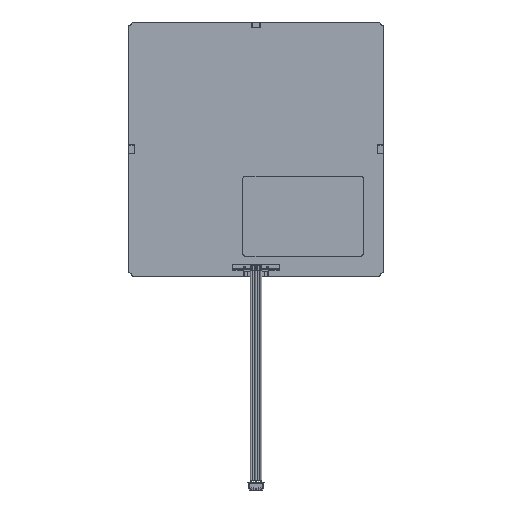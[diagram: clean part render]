
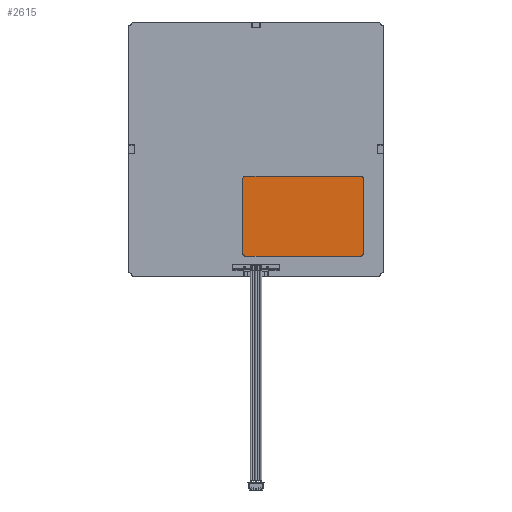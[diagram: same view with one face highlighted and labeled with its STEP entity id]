
A CAD part, front view. The second image highlights one B-rep face of the part: STEP entity #2615.
In plain terms, the highlighted planar face has unit normal (0, -1, 0) as drawn and (0, 1, 0) by its records, which use the part's own axes.
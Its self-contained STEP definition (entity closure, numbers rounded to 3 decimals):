
#174 = AXIS2_PLACEMENT_3D ( 'NONE', #16122, #3507, #18228 ) ;
#340 = ORIENTED_EDGE ( 'NONE', *, *, #17525, .T. ) ;
#1333 = DIRECTION ( 'NONE',  ( 0., 1., 0. ) ) ;
#1669 = CARTESIAN_POINT ( 'NONE',  ( 29., 0.1, -19. ) ) ;
#1893 = CARTESIAN_POINT ( 'NONE',  ( -29., 0.1, 19. ) ) ;
#2141 = VECTOR ( 'NONE', #17436, 1000. ) ;
#2196 = CIRCLE ( 'NONE', #174, 1. ) ;
#2614 = PLANE ( 'NONE',  #18202 ) ;
#2615 = ADVANCED_FACE ( 'NONE', ( #11105 ), #2614, .T. ) ;
#2953 = ORIENTED_EDGE ( 'NONE', *, *, #15421, .T. ) ;
#3267 = AXIS2_PLACEMENT_3D ( 'NONE', #1669, #16405, #3806 ) ;
#3507 = DIRECTION ( 'NONE',  ( 0., 1., 0. ) ) ;
#3806 = DIRECTION ( 'NONE',  ( 0., 0., 1. ) ) ;
#4035 = DIRECTION ( 'NONE',  ( 0., 0., 1. ) ) ;
#4966 = VECTOR ( 'NONE', #8790, 1000. ) ;
#4976 = CARTESIAN_POINT ( 'NONE',  ( 29., 0.1, 20. ) ) ;
#5397 = CARTESIAN_POINT ( 'NONE',  ( -30., 0.1, 19. ) ) ;
#5583 = CIRCLE ( 'NONE', #22064, 1. ) ;
#5632 = LINE ( 'NONE', #6680, #4966 ) ;
#6680 = CARTESIAN_POINT ( 'NONE',  ( -30., 0.1, -20. ) ) ;
#6806 = CARTESIAN_POINT ( 'NONE',  ( 0., 0.1, 0. ) ) ;
#6846 = DIRECTION ( 'NONE',  ( 0., 1., 0. ) ) ;
#7076 = VECTOR ( 'NONE', #24974, 1000. ) ;
#7111 = DIRECTION ( 'NONE',  ( 0., 0., 1. ) ) ;
#7462 = VERTEX_POINT ( 'NONE', #4976 ) ;
#8335 = EDGE_CURVE ( 'NONE', #15005, #12636, #9296, .T. ) ;
#8529 = EDGE_CURVE ( 'NONE', #18181, #7462, #11583, .T. ) ;
#8790 = DIRECTION ( 'NONE',  ( -1., 0., 0. ) ) ;
#9296 = CIRCLE ( 'NONE', #3267, 1. ) ;
#9712 = CARTESIAN_POINT ( 'NONE',  ( 30., 0.1, 19. ) ) ;
#10211 = CARTESIAN_POINT ( 'NONE',  ( -30., 0.1, 20. ) ) ;
#10390 = CARTESIAN_POINT ( 'NONE',  ( -29., 0.1, 20. ) ) ;
#10531 = CARTESIAN_POINT ( 'NONE',  ( 30., 0.1, -19. ) ) ;
#10672 = VERTEX_POINT ( 'NONE', #5397 ) ;
#10760 = VERTEX_POINT ( 'NONE', #9712 ) ;
#10922 = VECTOR ( 'NONE', #24866, 1000. ) ;
#11105 = FACE_OUTER_BOUND ( 'NONE', #20185, .T. ) ;
#11583 = LINE ( 'NONE', #10211, #10922 ) ;
#12152 = VERTEX_POINT ( 'NONE', #12750 ) ;
#12636 = VERTEX_POINT ( 'NONE', #14223 ) ;
#12654 = LINE ( 'NONE', #20806, #7076 ) ;
#12708 = LINE ( 'NONE', #15349, #2141 ) ;
#12750 = CARTESIAN_POINT ( 'NONE',  ( -30., 0.1, -19. ) ) ;
#13984 = CARTESIAN_POINT ( 'NONE',  ( -29., 0.1, -19. ) ) ;
#14212 = EDGE_CURVE ( 'NONE', #24370, #12152, #5583, .T. ) ;
#14223 = CARTESIAN_POINT ( 'NONE',  ( 29., 0.1, -20. ) ) ;
#15005 = VERTEX_POINT ( 'NONE', #10531 ) ;
#15349 = CARTESIAN_POINT ( 'NONE',  ( -30., 0.1, -20. ) ) ;
#15421 = EDGE_CURVE ( 'NONE', #7462, #10760, #2196, .T. ) ;
#16082 = DIRECTION ( 'NONE',  ( 0., 0., 1. ) ) ;
#16122 = CARTESIAN_POINT ( 'NONE',  ( 29., 0.1, 19. ) ) ;
#16303 = EDGE_CURVE ( 'NONE', #10672, #18181, #21602, .T. ) ;
#16405 = DIRECTION ( 'NONE',  ( 0., 1., 0. ) ) ;
#16489 = EDGE_CURVE ( 'NONE', #12152, #10672, #12708, .T. ) ;
#16612 = DIRECTION ( 'NONE',  ( 0., 1., 0. ) ) ;
#16648 = ORIENTED_EDGE ( 'NONE', *, *, #8529, .T. ) ;
#17198 = ORIENTED_EDGE ( 'NONE', *, *, #21873, .T. ) ;
#17436 = DIRECTION ( 'NONE',  ( 0., 0., 1. ) ) ;
#17525 = EDGE_CURVE ( 'NONE', #10760, #15005, #12654, .T. ) ;
#18181 = VERTEX_POINT ( 'NONE', #10390 ) ;
#18202 = AXIS2_PLACEMENT_3D ( 'NONE', #6806, #6846, #7111 ) ;
#18228 = DIRECTION ( 'NONE',  ( 0., 0., 1. ) ) ;
#20185 = EDGE_LOOP ( 'NONE', ( #16648, #2953, #340, #26964, #17198, #23810, #22526, #20937 ) ) ;
#20806 = CARTESIAN_POINT ( 'NONE',  ( 30., 0.1, -20. ) ) ;
#20937 = ORIENTED_EDGE ( 'NONE', *, *, #16303, .T. ) ;
#21602 = CIRCLE ( 'NONE', #21746, 1. ) ;
#21746 = AXIS2_PLACEMENT_3D ( 'NONE', #1893, #16612, #4035 ) ;
#21873 = EDGE_CURVE ( 'NONE', #12636, #24370, #5632, .T. ) ;
#22064 = AXIS2_PLACEMENT_3D ( 'NONE', #13984, #1333, #16082 ) ;
#22526 = ORIENTED_EDGE ( 'NONE', *, *, #16489, .T. ) ;
#23723 = CARTESIAN_POINT ( 'NONE',  ( -29., 0.1, -20. ) ) ;
#23810 = ORIENTED_EDGE ( 'NONE', *, *, #14212, .T. ) ;
#24370 = VERTEX_POINT ( 'NONE', #23723 ) ;
#24866 = DIRECTION ( 'NONE',  ( 1., 0., 0. ) ) ;
#24974 = DIRECTION ( 'NONE',  ( 0., 0., -1. ) ) ;
#26964 = ORIENTED_EDGE ( 'NONE', *, *, #8335, .T. ) ;
